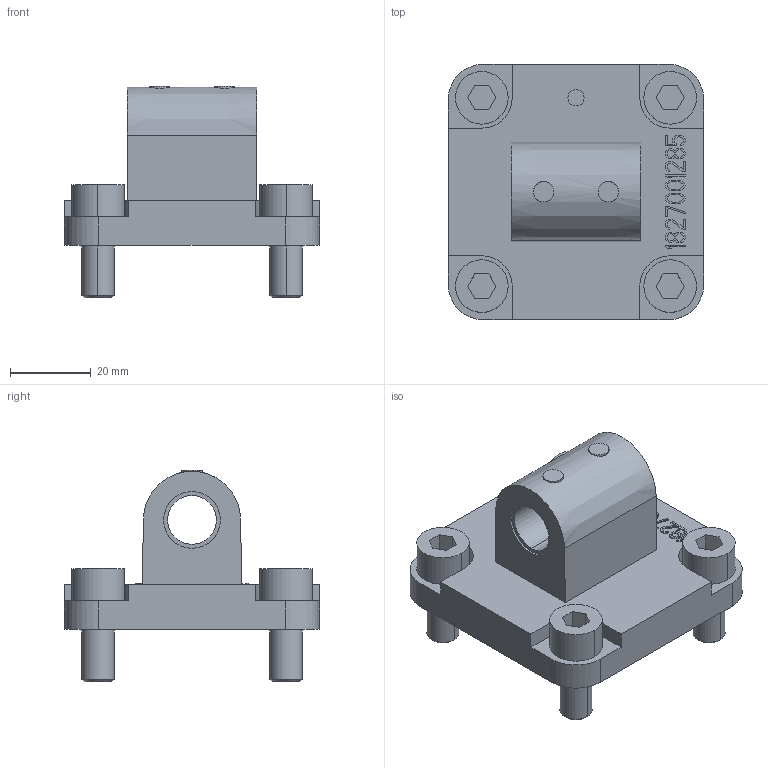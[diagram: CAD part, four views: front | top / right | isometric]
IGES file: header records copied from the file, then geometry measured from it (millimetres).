
Start section:  PTC IGES file: 1827001285\1827001285.iges
Global section: file name: 1827001285\1827001285.iges; native system: Creo Parametric by PTC Inc.; preprocessor: 2020044; author: THD3HC; organization: Unknown; date: 20231107.163342; units: millimetre
Bounding box: 63 x 63 x 52.3 mm (x, y, z)
Surface area: 19721.9 mm2 (no closed solid volume)
Topology: 0 solids, 0 shells, 485 faces, 2646 edges, 2646 vertices
Faces by surface type: bspline 424, revolution 61
